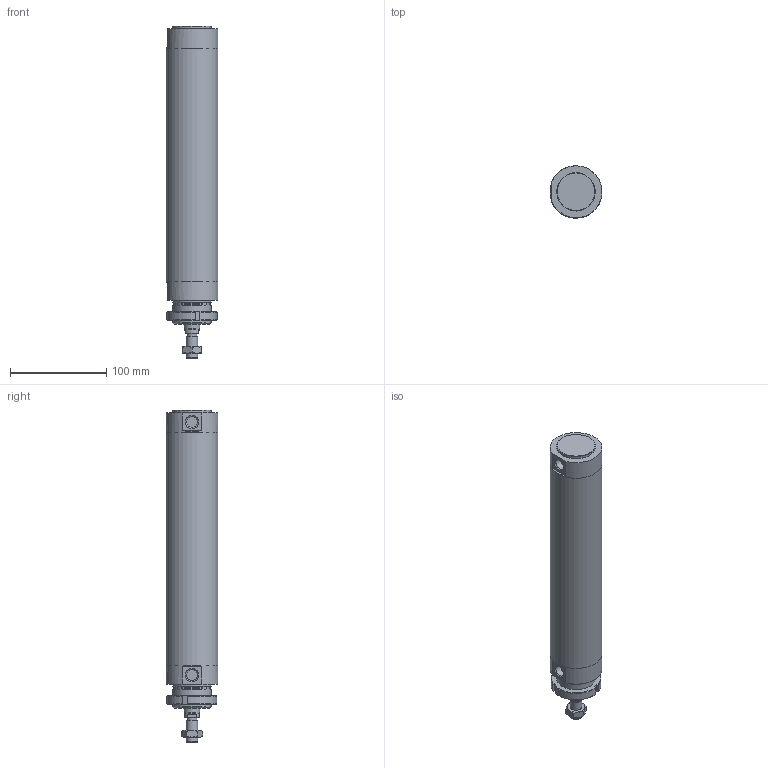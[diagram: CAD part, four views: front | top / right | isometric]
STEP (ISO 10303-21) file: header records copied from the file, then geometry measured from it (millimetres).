
FILE_DESCRIPTION(/* description */ (''),/* implementation_level */ '2;1');
FILE_NAME(/* name */ 'I:\Area Tecnica\Documenti\A-Manieri\_Inventor\12X\12X#D_###_####_#_#\12XAD_050_0200_#_#.stp',/* time_stamp */ '2015-04-29T16:44:22+02:00',/* author */ ('maniean1'),/* organization */ ('Pneumax S.p.A.'),/* preprocessor_version */ 'ST-DEVELOPER v15.2',/* originating_system */ 'Autodesk Inventor 2014',/* authorisation */ '');
FILE_SCHEMA (('AUTOMOTIVE_DESIGN { 1 0 10303 214 3 1 1 }'));
Length unit declared in the file: millimetre
Products named in the file (7): C1250_619-0200; 12X50_604; S12X50_0200; 12X_50_11; 12X50_611; G12X_050_05; 12XAD_050_0200_#_#
Bounding box: 54 x 54 x 345 mm (x, y, z)
Volume: 341026.9 mm3; surface area: 130929.9 mm2
Topology: 6 solids, 6 shells, 81 faces, 175 edges, 112 vertices
Faces by surface type: plane 41, cylinder 21, cone 19
Full cylindrical faces by diameter (mm): 10.2 x1, 11.4 x2, 12 x2, 14 x1, 15.6 x1, 16 x1, 38.2 x1, 40 x4, 50 x2, 54 x3
Entity records: 2155 total; most frequent: CARTESIAN_POINT 400, DIRECTION 364, ORIENTED_EDGE 284, AXIS2_PLACEMENT_3D 156, EDGE_CURVE 142, EDGE_LOOP 124, VERTEX_POINT 108, ADVANCED_FACE 81
